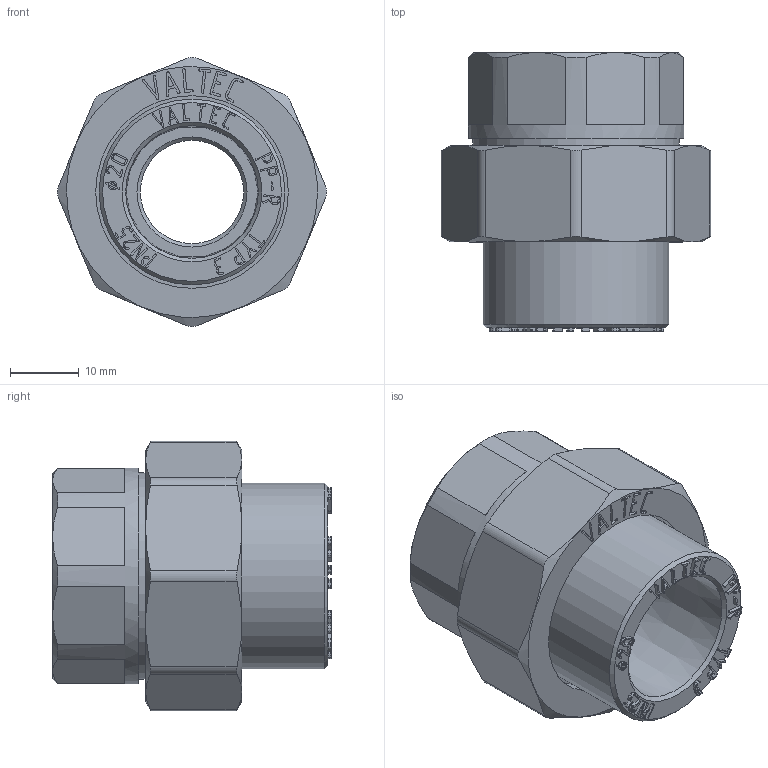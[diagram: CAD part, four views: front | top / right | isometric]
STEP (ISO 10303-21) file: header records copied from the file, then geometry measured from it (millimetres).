
FILE_DESCRIPTION(('STEP AP203'), '1');
FILE_NAME('VTp.762.0.02005', '2026-07-20T08:08:28', ('ledenevaEA'), (''), 'C3D Converter', 'C3D Toolkit', '');
FILE_SCHEMA(('CONFIG_CONTROL_DESIGN'));
Length unit declared in the file: millimetre
Products named in the file (1): ВР.302634.109.000 СБ
Bounding box: 39.18 x 40.5 x 39.18 mm (x, y, z)
Volume: 18743.8 mm3; surface area: 9035.2 mm2
Topology: 1 solids, 1 shells, 712 faces, 1974 edges, 1309 vertices
Faces by surface type: extrusion 389, plane 287, cone 21, cylinder 15
Full cylindrical faces by diameter (mm): 15 x1, 18.8 x1, 24.118 x1, 27 x1, 28 x1, 30 x1, 31.4 x1
Entity records: 24290 total; most frequent: CARTESIAN_POINT 7915, ORIENTED_EDGE 3874, DIRECTION 2169, EDGE_CURVE 1937, VECTOR 1465, VERTEX_POINT 1297, B_SPLINE_CURVE_WITH_KNOTS 1210, LINE 1076
